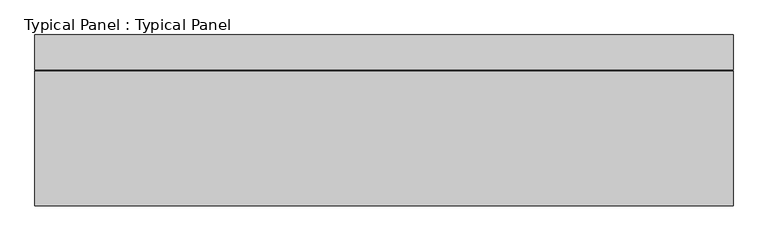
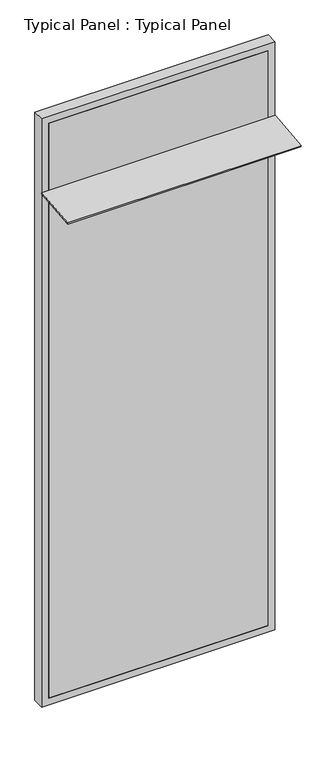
"""IFC4 building model written with IfcOpenShell, lengths in millimetres: plate geometry, Typical Panel : Typical Panel."""

from ifc_helpers import new_model, si_unit, frame, origin, place, context, project, spatial, polyline, outline, extrude, source, transform, mapped, element, save


def typical_panel_typical_panel_c7be0750(model_context):
    return source(origin(), model_context, "Body", "SweptSolid", [
        extrude(outline(polyline([(0.0, -289.9999999), (0.0, 0.0), (1500.0, 0.0), (1500.0, -289.9999999), (0.0, -289.9999999)])), frame((750.0, -292.366065, 3459.7415267), z_axis=(0.0, -0.10452846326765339, 0.9945218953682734), x_axis=(-1.0, 0.0, 0.0)), (0.0, 0.0, 1.0), 10.0),
        extrude(outline(polyline([(0.0, -750.0), (0.0, 750.0), (4000.0, 750.0), (4000.0, -750.0), (0.0, -750.0)]), holes=[polyline([(45.0, 705.0), (45.0, -705.0), (3955.0, -705.0), (3955.0, 705.0), (45.0, 705.0)])]), frame((0.0, -1.5797986, 0.0), z_axis=(0.0, 1.0, 0.0), x_axis=(0.0, 0.0, 1.0)), (0.0, 0.0, 1.0), 75.0),
        extrude(outline(polyline([(705.0, -1.5797986), (-705.0, -1.5797986), (-705.0, 13.4202014), (705.0, 13.4202014), (705.0, -1.5797986)])), frame((0.0, 0.0, 45.0), z_axis=(0.0, 0.0, 1.0), x_axis=(1.0, 0.0, 0.0)), (0.0, 0.0, 1.0), 3910.0),
    ])


if __name__ == "__main__":
    model = new_model("IFC4")
    model_context = context("Model", 3, world=origin())
    ifc_project = project(units=[si_unit("LENGTHUNIT", "METRE", prefix="MILLI")], contexts=[model_context])
    site = spatial("IfcSite", under=ifc_project)
    building = spatial("IfcBuilding", under=site)
    placement = place(None, origin())
    typical_panel_typical_panel_shape = typical_panel_typical_panel_c7be0750(model_context)
    element("IfcPlate", 1, ObjectType="Typical Panel : Typical Panel", at=placement, inside=building, context=model_context, shape_type="MappedRepresentation", body=[
        mapped(typical_panel_typical_panel_shape, transform((0.0, 0.0, 0.0), x_axis=(1.0, 0.0, 0.0), y_axis=(0.0, 1.0, 0.0), z_axis=(0.0, 0.0, 1.0))),
    ])
    save(model, "model.ifc")
